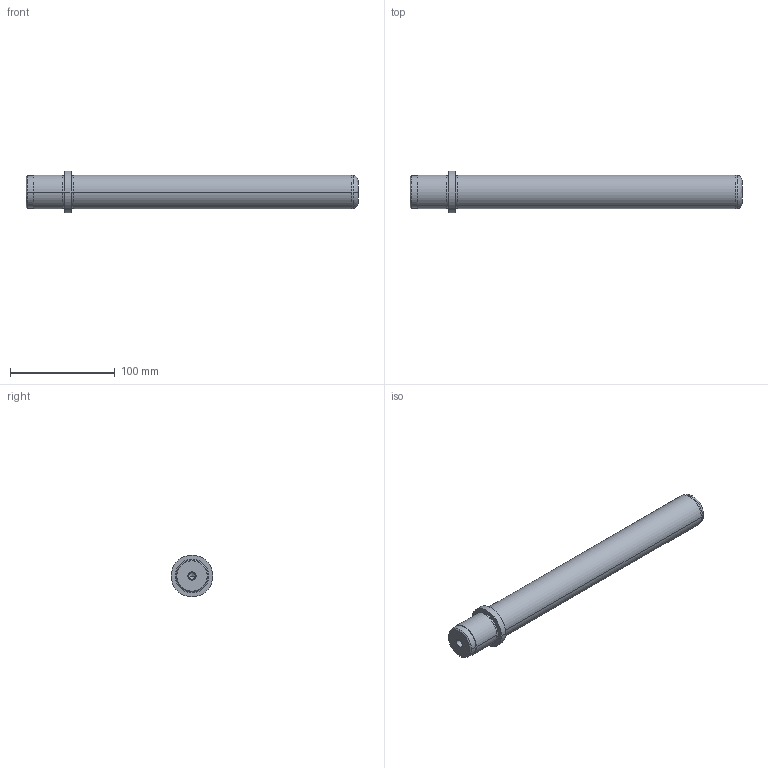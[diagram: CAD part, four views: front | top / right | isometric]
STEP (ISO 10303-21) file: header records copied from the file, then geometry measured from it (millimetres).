
FILE_DESCRIPTION( ( 'STEP AP203' ), '1' );
FILE_NAME( 'D:/Delta 3 D/D00/D00 - 32x280x37.step', '2003-01-02T07:05:49', ( ' ' ), ( ' ' ), 'XStep 1.0', ' ', ' ' );
FILE_SCHEMA( ( 'CONFIG_CONTROL_DESIGN' ) );
Length unit declared in the file: metre
Products named in the file (1): 1
Bounding box: 317 x 40 x 40 mm (x, y, z)
Volume: 254430.7 mm3; surface area: 35566.8 mm2
Topology: 1 solids, 1 shells, 39 faces, 78 edges, 48 vertices
Faces by surface type: revolution 28, bspline 11
Entity records: 1137 total; most frequent: CARTESIAN_POINT 277, DIRECTION 154, ORIENTED_EDGE 152, EDGE_CURVE 76, AXIS2_PLACEMENT_3D 49, EDGE_LOOP 48, VERTEX_POINT 48, CIRCLE 48
